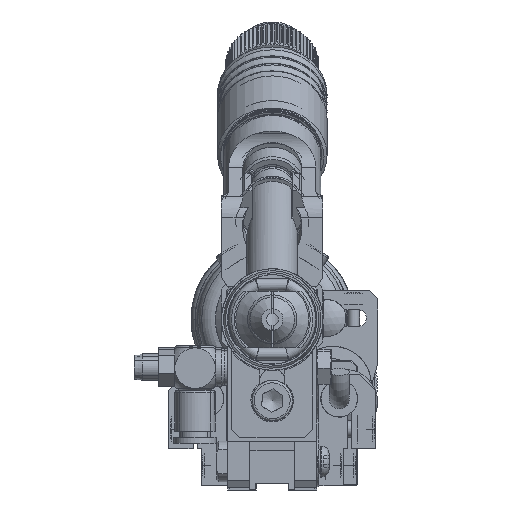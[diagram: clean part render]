
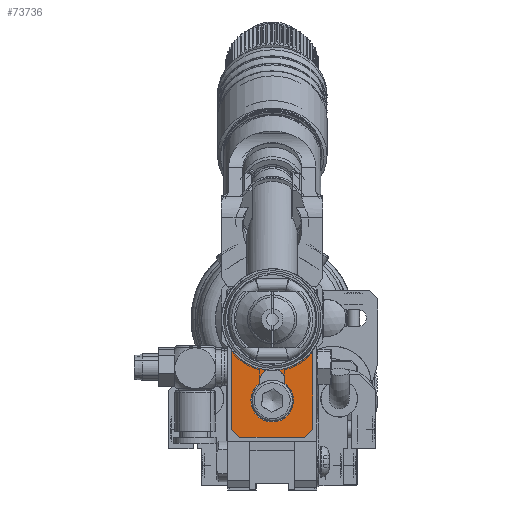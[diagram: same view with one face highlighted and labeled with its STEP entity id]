
A CAD part, left-side view. The second image highlights one B-rep face of the part: STEP entity #73736.
In plain terms, the highlighted planar face has unit normal (-1, 0, 0).
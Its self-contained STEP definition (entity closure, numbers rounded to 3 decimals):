
#4060=FACE_BOUND('',#11921,.T.);
#5192=PLANE('',#78608);
#7807=FACE_OUTER_BOUND('',#11920,.T.);
#11920=EDGE_LOOP('',(#53312,#53313,#53314,#53315,#53316,#53317,#53318,#53319,
#53320));
#11921=EDGE_LOOP('',(#53321,#53322,#53323,#53324));
#17071=LINE('',#111311,#22330);
#17077=LINE('',#111324,#22336);
#17078=LINE('',#111326,#22337);
#17079=LINE('',#111328,#22338);
#17080=LINE('',#111330,#22339);
#17081=LINE('',#111336,#22340);
#17082=LINE('',#111338,#22341);
#17083=LINE('',#111339,#22342);
#17084=LINE('',#111341,#22343);
#22330=VECTOR('',#89161,10.);
#22336=VECTOR('',#89169,10.);
#22337=VECTOR('',#89170,10.);
#22338=VECTOR('',#89171,10.);
#22339=VECTOR('',#89172,10.);
#22340=VECTOR('',#89177,10.);
#22341=VECTOR('',#89178,10.);
#22342=VECTOR('',#89179,10.);
#22343=VECTOR('',#89180,10.);
#26316=CIRCLE('',#78605,5.25);
#26317=CIRCLE('',#78609,10.);
#26318=CIRCLE('',#78610,10.);
#26319=CIRCLE('',#78611,3.1);
#30656=VERTEX_POINT('',#111299);
#30658=VERTEX_POINT('',#111303);
#30659=VERTEX_POINT('',#111310);
#30664=VERTEX_POINT('',#111322);
#30665=VERTEX_POINT('',#111323);
#30666=VERTEX_POINT('',#111325);
#30667=VERTEX_POINT('',#111327);
#30668=VERTEX_POINT('',#111329);
#30669=VERTEX_POINT('',#111331);
#30670=VERTEX_POINT('',#111333);
#30671=VERTEX_POINT('',#111335);
#30672=VERTEX_POINT('',#111337);
#30673=VERTEX_POINT('',#111340);
#39099=EDGE_CURVE('',#30656,#30658,#26316,.T.);
#39102=EDGE_CURVE('',#30659,#30656,#17071,.T.);
#39108=EDGE_CURVE('',#30664,#30665,#17077,.T.);
#39109=EDGE_CURVE('',#30665,#30666,#17078,.T.);
#39110=EDGE_CURVE('',#30666,#30667,#17079,.T.);
#39111=EDGE_CURVE('',#30667,#30668,#17080,.T.);
#39112=EDGE_CURVE('',#30668,#30669,#26317,.T.);
#39113=EDGE_CURVE('',#30669,#30670,#26318,.T.);
#39114=EDGE_CURVE('',#30670,#30671,#17081,.T.);
#39115=EDGE_CURVE('',#30671,#30672,#17082,.T.);
#39116=EDGE_CURVE('',#30672,#30664,#17083,.T.);
#39117=EDGE_CURVE('',#30658,#30673,#17084,.T.);
#39118=EDGE_CURVE('',#30673,#30659,#26319,.T.);
#53312=ORIENTED_EDGE('',*,*,#39108,.T.);
#53313=ORIENTED_EDGE('',*,*,#39109,.T.);
#53314=ORIENTED_EDGE('',*,*,#39110,.T.);
#53315=ORIENTED_EDGE('',*,*,#39111,.T.);
#53316=ORIENTED_EDGE('',*,*,#39112,.T.);
#53317=ORIENTED_EDGE('',*,*,#39113,.T.);
#53318=ORIENTED_EDGE('',*,*,#39114,.T.);
#53319=ORIENTED_EDGE('',*,*,#39115,.T.);
#53320=ORIENTED_EDGE('',*,*,#39116,.T.);
#53321=ORIENTED_EDGE('',*,*,#39099,.T.);
#53322=ORIENTED_EDGE('',*,*,#39117,.T.);
#53323=ORIENTED_EDGE('',*,*,#39118,.T.);
#53324=ORIENTED_EDGE('',*,*,#39102,.T.);
#73736=ADVANCED_FACE('',(#7807,#4060),#5192,.F.);
#78605=AXIS2_PLACEMENT_3D('',#111305,#89153,#89154);
#78608=AXIS2_PLACEMENT_3D('',#111321,#89167,#89168);
#78609=AXIS2_PLACEMENT_3D('',#111332,#89173,#89174);
#78610=AXIS2_PLACEMENT_3D('',#111334,#89175,#89176);
#78611=AXIS2_PLACEMENT_3D('',#111342,#89181,#89182);
#89153=DIRECTION('center_axis',(1.,0.,0.));
#89154=DIRECTION('ref_axis',(0.,0.,1.));
#89161=DIRECTION('',(0.,0.,-1.));
#89167=DIRECTION('center_axis',(1.,0.,0.));
#89168=DIRECTION('ref_axis',(0.,0.,1.));
#89169=DIRECTION('',(0.,-1.,0.));
#89170=DIRECTION('',(0.,-0.707,0.707));
#89171=DIRECTION('',(0.,0.,1.));
#89172=DIRECTION('',(0.,1.,0.));
#89173=DIRECTION('center_axis',(1.,0.,0.));
#89174=DIRECTION('ref_axis',(0.,-0.76,-0.65));
#89175=DIRECTION('center_axis',(1.,0.,0.));
#89176=DIRECTION('ref_axis',(0.,-0.76,-0.65));
#89177=DIRECTION('',(0.,1.,0.));
#89178=DIRECTION('',(0.,0.,-1.));
#89179=DIRECTION('',(0.,-0.707,-0.707));
#89180=DIRECTION('',(0.,0.,1.));
#89181=DIRECTION('center_axis',(1.,0.,0.));
#89182=DIRECTION('ref_axis',(0.,-1.,0.));
#111299=CARTESIAN_POINT('',(-300.559,-3.1,-15.763));
#111303=CARTESIAN_POINT('',(-300.559,3.1,-15.763));
#111305=CARTESIAN_POINT('Origin',(-300.559,0.,
-20.));
#111310=CARTESIAN_POINT('',(-300.559,-3.1,-15.2));
#111311=CARTESIAN_POINT('',(-300.559,-3.1,-16.384));
#111321=CARTESIAN_POINT('Origin',(-300.559,0.,
-17.568));
#111322=CARTESIAN_POINT('',(-300.559,8.,-29.));
#111323=CARTESIAN_POINT('',(-300.559,-8.,-29.));
#111324=CARTESIAN_POINT('',(-300.559,8.,-29.));
#111325=CARTESIAN_POINT('',(-300.559,-10.,-27.));
#111326=CARTESIAN_POINT('',(-300.559,-8.,-29.));
#111327=CARTESIAN_POINT('',(-300.559,-10.,-6.5));
#111328=CARTESIAN_POINT('',(-300.559,-10.,-27.));
#111329=CARTESIAN_POINT('',(-300.559,-7.599,-6.5));
#111330=CARTESIAN_POINT('',(-300.559,-10.,-6.5));
#111331=CARTESIAN_POINT('',(-300.559,0.,-10.));
#111332=CARTESIAN_POINT('Origin',(-300.559,0.,
0.));
#111333=CARTESIAN_POINT('',(-300.559,7.599,-6.5));
#111334=CARTESIAN_POINT('Origin',(-300.559,0.,
0.));
#111335=CARTESIAN_POINT('',(-300.559,10.,-6.5));
#111336=CARTESIAN_POINT('',(-300.559,7.599,-6.5));
#111337=CARTESIAN_POINT('',(-300.559,10.,-27.));
#111338=CARTESIAN_POINT('',(-300.559,10.,-6.5));
#111339=CARTESIAN_POINT('',(-300.559,10.,-27.));
#111340=CARTESIAN_POINT('',(-300.559,3.1,-15.2));
#111341=CARTESIAN_POINT('',(-300.559,3.1,-18.784));
#111342=CARTESIAN_POINT('Origin',(-300.559,0.,
-15.2));
